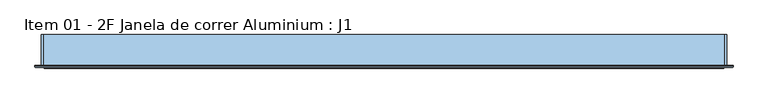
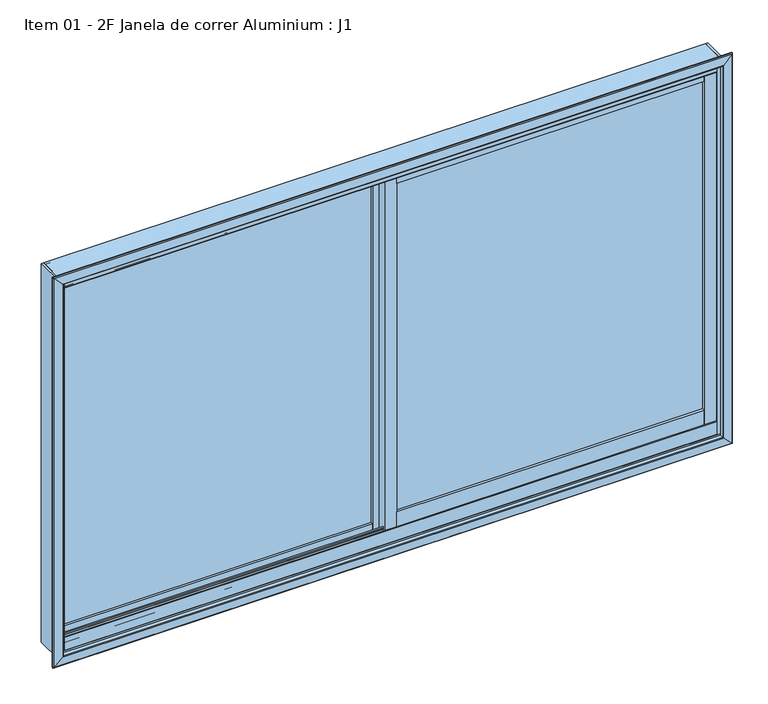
"""IFC4 building model written with IfcOpenShell, lengths in millimetres: window geometry, Item 01 - 2F Janela de correr Aluminium : J1."""

from ifc_helpers import new_model, si_unit, frame, origin, place, context, project, spatial, polyline, circle_curve, ellipse_curve, outline, extrude, source, transform, mapped, element, save
from ifc_brep_helpers import plane_surface, cylinder_surface, revolved_surface, advanced_brep


def item_01_2f_janela_de_correr_aluminium_j1_3e6ac885(model_context):
    return source(origin(), model_context, "Body", "SolidModel", [
        extrude(outline(polyline([(-27.3998339, -10.3), (-27.3998339, -14.3), (-954.750983, -14.3), (-954.750983, -10.3), (-27.3998339, -10.3)])), frame((0.0, 0.0, 857.0), z_axis=(0.0, 0.0, 1.0), x_axis=(1.0, 0.0, 0.0)), (0.0, 0.0, 1.0), 1080.5),
        extrude(outline(polyline([(27.2998339, -45.9), (27.2998339, -41.9), (948.868646, -41.9), (948.868646, -45.9), (27.2998339, -45.9)])), frame((0.0, 0.0, 895.5), z_axis=(0.0, 0.0, 1.0), x_axis=(1.0, 0.0, 0.0)), (0.0, 0.0, 1.0), 1042.0),
        extrude(outline(polyline([(948.868646, -33.9), (948.868646, -53.9), (27.2998339, -53.9), (27.2998339, -33.9), (948.868646, -33.9)])), frame((0.0, 0.0, 847.9996573), z_axis=(0.0, 0.0, 1.0), x_axis=(1.0, 0.0, 0.0)), (0.0, 0.0, 1.0), 47.5003427),
        extrude(outline(polyline([(948.868646, -33.9), (948.868646, -53.9), (27.2998339, -53.9), (27.2998339, -33.9), (948.868646, -33.9)])), frame((0.0, 0.0, 1937.4996573), z_axis=(0.0, 0.0, 1.0), x_axis=(1.0, 0.0, 0.0)), (0.0, 0.0, 1.0), 34.5),
        extrude(outline(polyline([(-27.3998339, -2.3), (-27.3998339, -22.3), (-954.750983, -22.3), (-954.750983, -2.3), (-27.3998339, -2.3)])), frame((0.0, 0.0, 821.0), z_axis=(0.0, 0.0, 1.0), x_axis=(1.0, 0.0, 0.0)), (0.0, 0.0, 1.0), 36.0),
        extrude(outline(polyline([(-27.3998339, -2.3), (-27.3998339, -22.3), (-954.750983, -22.3), (-954.750983, -2.3), (-27.3998339, -2.3)])), frame((0.0, 0.0, 1937.5), z_axis=(0.0, 0.0, 1.0), x_axis=(1.0, 0.0, 0.0)), (0.0, 0.0, 1.0), 34.5),
        extrude(outline(polyline([(-954.750983, -22.3), (-993.0, -22.3), (-993.0, -2.3), (-954.750983, -2.3), (-954.750983, -22.3)])), frame((0.0, 0.0, 821.0), z_axis=(0.0, 0.0, 1.0), x_axis=(1.0, 0.0, 0.0)), (0.0, 0.0, 1.0), 1151.0),
        extrude(outline(polyline([(-27.3998339, -22.3), (-27.3998339, -2.3), (7.6001661, -2.3), (7.6001661, -33.9), (27.2998339, -33.9), (27.2998339, -53.9), (-7.6001661, -53.9), (-7.6001661, -22.3), (-27.3998339, -22.3)])), frame((0.0, 0.0, 821.0), z_axis=(0.0, 0.0, 1.0), x_axis=(1.0, 0.0, 0.0)), (0.0, 0.0, 1.0), 1151.0),
        extrude(outline(polyline([(993.0, -53.9), (948.868646, -53.9), (948.868646, -33.9), (993.0, -33.9), (993.0, -53.9)])), frame((0.0, 0.0, 821.0), z_axis=(0.0, 0.0, 1.0), x_axis=(1.0, 0.0, 0.0)), (0.0, 0.0, 1.0), 1151.0),
        advanced_brep(
        [(-992.5998339, 8.5620965, 810.2470077), (-992.5998339, 8.5620965, 801.4000436), (-992.5998339, 13.600001, 801.4000436), (-992.5998339, 13.600001, 807.4000364), (-992.5998339, 14.9999993, 807.4000364), (-992.5998339, 15.0, 800.0), (-992.5998339, -75.0, 800.0), (-992.5998339, -75.0, 807.4000364), (-992.5998339, -73.6000017, 807.4000364), (-992.5998339, -73.6000017, 801.3999983), (-992.5998339, -68.6000077, 801.3999983), (-992.5998339, -68.6000077, 815.5000406), (-992.5998339, -66.9001002, 815.5000406), (-992.5998339, -66.9002002, 855.4959852), (-992.5998339, -63.9002108, 855.4999745), (-992.5998339, -63.9002039, 852.9999952), (-992.5998339, -65.5001025, 852.0762974), (-992.5998339, -65.4999102, 840.5017467), (-992.5998339, -64.5522917, 839.4937615), (-992.5998339, -42.5000392, 838.337999), (-992.5998339, -42.5000392, 852.496362), (-992.5998339, -44.7000484, 852.496362), (-992.5998339, -44.7000484, 848.6999865), (-992.5998339, -46.1007067, 848.6999865), (-992.5998339, -46.1007067, 852.4947997), (-992.5998339, -41.099933, 852.4947997), (-992.5998339, -41.099933, 838.2646991), (-992.5998339, -39.464205, 838.1789418), (-992.5998339, -35.731283, 834.861102), (-992.5998339, -32.3590937, 815.7367048), (-992.5998339, -29.9346709, 813.5917613), (-992.5998339, -14.4999651, 812.7828298), (-992.5998339, -14.4999651, 825.4891381), (-992.5998339, -9.4999947, 825.4999956), (-992.5998339, -9.4999711, 821.7000191), (-992.5998339, -10.8999694, 821.7000191), (-992.5998339, -10.8999694, 825.4963945), (-992.5998339, -13.0999825, 825.4963945), (-992.5998339, -13.0999825, 812.7095299), (-992.5998339, 7.2297593, 811.6448774), (992.5998339, 8.5620965, 810.2470077), (992.5998339, 8.5620965, 801.4000436), (992.5998339, 13.600001, 801.4000436), (992.5998339, 13.600001, 807.4000364), (992.5998339, 14.9999993, 807.4000364), (992.5998339, 15.0, 800.0), (992.5998339, -75.0, 800.0), (992.5998339, -75.0, 807.4000364), (992.5998339, -73.6000017, 807.4000364), (992.5998339, -73.6000017, 801.3999983), (992.5998339, -68.6000077, 801.3999983), (992.5998339, -68.6000077, 815.5000406), (992.5998339, -66.9001002, 815.5000406), (992.5998339, -66.9002002, 855.4959852), (992.5998339, -63.9002108, 855.4999745), (992.5998339, -63.9002039, 852.9999952), (992.5998339, -65.5001025, 852.0762974), (992.5998339, -65.4999102, 840.5017467), (992.5998339, -64.5522917, 839.4937615), (992.5998339, -42.5000392, 838.337999), (992.5998339, -42.5000392, 852.496362), (992.5998339, -44.7000484, 852.496362), (992.5998339, -44.7000484, 848.6999865), (992.5998339, -46.1007067, 848.6999865), (992.5998339, -46.1007067, 852.4947997), (992.5998339, -41.099933, 852.4947997), (992.5998339, -41.099933, 838.2646991), (992.5998339, -39.464205, 838.1789418), (992.5998339, -35.731283, 834.861102), (992.5998339, -32.3590937, 815.7367048), (992.5998339, -29.9346709, 813.5917613), (992.5998339, -14.4999651, 812.7828298), (992.5998339, -14.4999651, 825.4891381), (992.5998339, -9.4999947, 825.4999956), (992.5998339, -9.4999711, 821.7000191), (992.5998339, -10.8999694, 821.7000191), (992.5998339, -10.8999694, 825.4963945), (992.5998339, -13.0999825, 825.4963945), (992.5998339, -13.0999825, 812.7095299), (992.5998339, 7.2297593, 811.6448774)],
        [
            (0, 1),
            (1, 2),
            (2, 3),
            (3, 4),
            (4, 5),
            (5, 6),
            (6, 7),
            (7, 8),
            (8, 9),
            (9, 10),
            (10, 11),
            (11, 12),
            (12, 13),
            (13, 14, circle_curve(frame((-992.5998339, -65.4002082, 855.4999743), z_axis=(-1.0, 0.0, 0.0), x_axis=(0.0, 0.0, 1.0)), 1.4999974)),
            (14, 15),
            (15, 16),
            (16, 17),
            (17, 18, circle_curve(frame((-992.5998339, -64.4999552, 840.4923898), z_axis=(1.0, 0.0, 0.0), x_axis=(0.0, 0.0, 1.0)), 0.9999988)),
            (18, 19),
            (19, 20),
            (20, 21, circle_curve(frame((-992.5998339, -43.6000438, 852.496362), z_axis=(1.0, 0.0, 0.0), x_axis=(0.0, 0.0, 1.0)), 1.1000046)),
            (21, 22),
            (22, 23, circle_curve(frame((-992.5998339, -45.4003775, 848.6999865), z_axis=(-1.0, 0.0, 0.0), x_axis=(0.0, 0.0, 1.0)), 0.7003292)),
            (23, 24),
            (24, 25, circle_curve(frame((-992.5998339, -43.6003199, 852.4947997), z_axis=(-1.0, 0.0, 0.0), x_axis=(0.0, 0.0, 1.0)), 2.5003869)),
            (25, 26),
            (26, 27),
            (27, 28, circle_curve(frame((-992.5998339, -39.6736275, 834.1844326), z_axis=(-1.0, 0.0, 0.0), x_axis=(0.0, 0.0, 1.0)), 3.9999952)),
            (28, 29),
            (29, 30, circle_curve(frame((-992.5998339, -29.7985976, 816.188195), z_axis=(1.0, 0.0, 0.0), x_axis=(0.0, 0.0, 1.0)), 2.5999969)),
            (30, 31),
            (31, 32),
            (32, 33, circle_curve(frame((-992.5998339, -11.9999917, 825.4999955), z_axis=(-1.0, 0.0, 0.0), x_axis=(0.0, 0.0, 1.0)), 2.499997)),
            (33, 34),
            (34, 35, circle_curve(frame((-992.5998339, -10.1999703, 821.7000191), z_axis=(-1.0, 0.0, 0.0), x_axis=(0.0, 0.0, 1.0)), 0.6999992)),
            (35, 36),
            (36, 37, circle_curve(frame((-992.5998339, -11.9999759, 825.4963945), z_axis=(1.0, 0.0, 0.0), x_axis=(0.0, 0.0, 1.0)), 1.1000065)),
            (37, 38),
            (38, 39),
            (39, 0, circle_curve(frame((-992.5998339, 7.1626152, 810.2470077), z_axis=(-1.0, 0.0, 0.0), x_axis=(0.0, 0.0, 1.0)), 1.3994814)),
            (0, 40),
            (40, 41),
            (41, 1),
            (41, 42),
            (42, 2),
            (42, 43),
            (43, 3),
            (43, 44),
            (44, 4),
            (44, 45),
            (45, 5),
            (45, 46),
            (46, 6),
            (46, 47),
            (47, 7),
            (47, 48),
            (48, 8),
            (48, 49),
            (49, 9),
            (49, 50),
            (50, 10),
            (50, 51),
            (51, 11),
            (51, 52),
            (52, 12),
            (52, 53),
            (53, 13),
            (53, 54, circle_curve(frame((992.5998339, -65.4002082, 855.4999743), z_axis=(-1.0, 0.0, 0.0), x_axis=(0.0, 0.0, 1.0)), 1.4999974)),
            (54, 14),
            (54, 55),
            (55, 15),
            (55, 56),
            (56, 16),
            (56, 57),
            (57, 17),
            (57, 58, circle_curve(frame((992.5998339, -64.4999552, 840.4923898), z_axis=(1.0, 0.0, 0.0), x_axis=(0.0, 0.0, 1.0)), 0.9999988)),
            (58, 18),
            (58, 59),
            (59, 19),
            (59, 60),
            (60, 20),
            (60, 61, circle_curve(frame((992.5998339, -43.6000438, 852.496362), z_axis=(1.0, 0.0, 0.0), x_axis=(0.0, 0.0, 1.0)), 1.1000046)),
            (61, 21),
            (61, 62),
            (62, 22),
            (62, 63, circle_curve(frame((992.5998339, -45.4003775, 848.6999865), z_axis=(-1.0, 0.0, 0.0), x_axis=(0.0, 0.0, 1.0)), 0.7003292)),
            (63, 23),
            (63, 64),
            (64, 24),
            (64, 65, circle_curve(frame((992.5998339, -43.6003199, 852.4947997), z_axis=(-1.0, 0.0, 0.0), x_axis=(0.0, 0.0, 1.0)), 2.5003869)),
            (65, 25),
            (65, 66),
            (66, 26),
            (66, 67),
            (67, 27),
            (67, 68, circle_curve(frame((992.5998339, -39.6736275, 834.1844326), z_axis=(-1.0, 0.0, 0.0), x_axis=(0.0, 0.0, 1.0)), 3.9999952)),
            (68, 28),
            (68, 69),
            (69, 29),
            (69, 70, circle_curve(frame((992.5998339, -29.7985976, 816.188195), z_axis=(1.0, 0.0, 0.0), x_axis=(0.0, 0.0, 1.0)), 2.5999969)),
            (70, 30),
            (70, 71),
            (71, 31),
            (71, 72),
            (72, 32),
            (72, 73, circle_curve(frame((992.5998339, -11.9999917, 825.4999955), z_axis=(-1.0, 0.0, 0.0), x_axis=(0.0, 0.0, 1.0)), 2.499997)),
            (73, 33),
            (73, 74),
            (74, 34),
            (74, 75, circle_curve(frame((992.5998339, -10.1999703, 821.7000191), z_axis=(-1.0, 0.0, 0.0), x_axis=(0.0, 0.0, 1.0)), 0.6999992)),
            (75, 35),
            (75, 76),
            (76, 36),
            (76, 77, circle_curve(frame((992.5998339, -11.9999759, 825.4963945), z_axis=(1.0, 0.0, 0.0), x_axis=(0.0, 0.0, 1.0)), 1.1000065)),
            (77, 37),
            (77, 78),
            (78, 38),
            (78, 79),
            (79, 39),
            (79, 40, circle_curve(frame((992.5998339, 7.1626152, 810.2470077), z_axis=(-1.0, 0.0, 0.0), x_axis=(0.0, 0.0, 1.0)), 1.3994814)),
        ],
        [
            plane_surface(frame((-992.5998339, -75.0, 2000.0), z_axis=(-1.0, 0.0, 0.0), x_axis=(0.0, -1.0, 0.0))),
            plane_surface(frame((-992.5998339, 8.5620965, 810.2470077), z_axis=(0.0, 1.0, 0.0), x_axis=(1.0, 0.0, 0.0))),
            plane_surface(frame((-992.5998339, 8.5620965, 801.4000436), z_axis=(0.0, 0.0, 1.0), x_axis=(1.0, 0.0, 0.0))),
            plane_surface(frame((-992.5998339, 13.600001, 801.4000436), z_axis=(0.0, -1.0, 0.0), x_axis=(1.0, 0.0, 0.0))),
            plane_surface(frame((-992.5998339, 13.600001, 807.4000364), z_axis=(0.0, 0.0, 1.0), x_axis=(1.0, 0.0, 0.0))),
            plane_surface(frame((-992.5998339, 14.9999993, 807.4000364), z_axis=(0.0, 0.999999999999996, 9.01305508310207e-08), x_axis=(1.0, 0.0, 0.0))),
            plane_surface(frame((-992.5998339, 15.0, 800.0), z_axis=(0.0, 0.0, -1.0), x_axis=(1.0, 0.0, 0.0))),
            plane_surface(frame((-992.5998339, -75.0, 800.0), z_axis=(0.0, -1.0, 0.0), x_axis=(1.0, 0.0, 0.0))),
            plane_surface(frame((-992.5998339, -75.0, 807.4000364), z_axis=(0.0, 0.0, 1.0), x_axis=(1.0, 0.0, 0.0))),
            plane_surface(frame((-992.5998339, -73.6000017, 807.4000364), z_axis=(0.0, 1.0, 0.0), x_axis=(1.0, 0.0, 0.0))),
            plane_surface(frame((-992.5998339, -73.6000017, 801.3999983), z_axis=(0.0, 0.0, 1.0), x_axis=(1.0, 0.0, 0.0))),
            plane_surface(frame((-992.5998339, -68.6000077, 801.3999983), z_axis=(0.0, -1.0, 0.0), x_axis=(1.0, 0.0, 0.0))),
            plane_surface(frame((-992.5998339, -68.6000077, 815.5000406), z_axis=(0.0, 0.0, 1.0), x_axis=(1.0, 0.0, 0.0))),
            plane_surface(frame((-992.5998339, -66.9001002, 815.5000406), z_axis=(0.0, -0.999999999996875, -2.50000000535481e-06), x_axis=(1.0, 0.0, 0.0))),
            cylinder_surface(frame((-992.5998339, -65.4002082, 855.4999743), z_axis=(-1.0, 0.0, 0.0), x_axis=(0.0, 0.0, 1.0)), 1.4999974),
            plane_surface(frame((-992.5998339, -63.9002039, 855.4999927), z_axis=(0.0, 1.0, 0.0), x_axis=(1.0, 0.0, 0.0))),
            plane_surface(frame((-992.5998339, -63.9002039, 852.9999952), z_axis=(0.0, 0.4999983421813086, -0.8660263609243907), x_axis=(1.0, 0.0, 0.0))),
            plane_surface(frame((-992.5998339, -65.5001025, 852.0762974), z_axis=(0.0, 0.9999999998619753, 1.6614737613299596e-05), x_axis=(1.0, 0.0, 0.0))),
            revolved_surface(polyline([(992.5998339, -64.4999552, 841.4923885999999), (-992.5998339, -64.4999552, 841.4923885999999)]), (-992.5998339, -64.4999552, 840.4923898), (1.0, 0.0, 0.0)),
            plane_surface(frame((-992.5998339, -64.5523119, 839.493712), z_axis=(0.0, 0.05233606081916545, 0.9986295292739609), x_axis=(1.0, 0.0, 0.0))),
            plane_surface(frame((-992.5998339, -42.5000392, 838.337999), z_axis=(0.0, -1.0, 0.0), x_axis=(1.0, 0.0, 0.0))),
            revolved_surface(polyline([(992.5998339, -43.6000438, 853.5963666), (-992.5998339, -43.6000438, 853.5963666)]), (-992.5998339, -43.6000438, 852.496362), (1.0, 0.0, 0.0)),
            plane_surface(frame((-992.5998339, -44.7000484, 852.496362), z_axis=(0.0, 1.0, 0.0), x_axis=(1.0, 0.0, 0.0))),
            cylinder_surface(frame((-992.5998339, -45.4003775, 848.6999865), z_axis=(-1.0, 0.0, 0.0), x_axis=(0.0, 0.0, 1.0)), 0.7003292),
            plane_surface(frame((-992.5998339, -46.1007067, 848.6999865), z_axis=(0.0, -1.0, 0.0), x_axis=(1.0, 0.0, 0.0))),
            cylinder_surface(frame((-992.5998339, -43.6003199, 852.4947997), z_axis=(-1.0, 0.0, 0.0), x_axis=(0.0, 0.0, 1.0)), 2.5003869),
            plane_surface(frame((-992.5998339, -41.099933, 852.4947997), z_axis=(0.0, 1.0, 0.0), x_axis=(1.0, 0.0, 0.0))),
            plane_surface(frame((-992.5998339, -41.099933, 838.2646991), z_axis=(0.0, 0.05235569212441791, 0.998628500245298), x_axis=(1.0, 0.0, 0.0))),
            cylinder_surface(frame((-992.5998339, -39.6736275, 834.1844326), z_axis=(-1.0, 0.0, 0.0), x_axis=(0.0, 0.0, 1.0)), 3.9999952),
            plane_surface(frame((-992.5998339, -35.731283, 834.861102), z_axis=(0.0, 0.9848073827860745, 0.1736502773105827), x_axis=(1.0, 0.0, 0.0))),
            revolved_surface(polyline([(992.5998339, -29.7985976, 818.7881918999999), (-992.5998339, -29.7985976, 818.7881918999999)]), (-992.5998339, -29.7985976, 816.188195), (1.0, 0.0, 0.0)),
            plane_surface(frame((-992.5998339, -29.9346464, 813.5917288), z_axis=(0.0, 0.05233606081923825, 0.9986295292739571), x_axis=(1.0, 0.0, 0.0))),
            plane_surface(frame((-992.5998339, -14.4999651, 812.7828298), z_axis=(0.0, -1.0, 0.0), x_axis=(1.0, 0.0, 0.0))),
            cylinder_surface(frame((-992.5998339, -11.9999917, 825.4999955), z_axis=(-1.0, 0.0, 0.0), x_axis=(0.0, 0.0, 1.0)), 2.499997),
            plane_surface(frame((-992.5998339, -9.4999711, 825.5000145), z_axis=(0.0, 1.0, 0.0), x_axis=(1.0, 0.0, 0.0))),
            cylinder_surface(frame((-992.5998339, -10.1999703, 821.7000191), z_axis=(-1.0, 0.0, 0.0), x_axis=(0.0, 0.0, 1.0)), 0.6999992),
            plane_surface(frame((-992.5998339, -10.8999694, 821.7000191), z_axis=(0.0, -1.0, 0.0), x_axis=(1.0, 0.0, 0.0))),
            revolved_surface(polyline([(992.5998339, -11.9999759, 826.5964009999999), (-992.5998339, -11.9999759, 826.5964009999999)]), (-992.5998339, -11.9999759, 825.4963945), (1.0, 0.0, 0.0)),
            plane_surface(frame((-992.5998339, -13.0999825, 825.4963945), z_axis=(0.0, 1.0, 0.0), x_axis=(1.0, 0.0, 0.0))),
            plane_surface(frame((-992.5998339, -13.0999825, 812.7095299), z_axis=(0.0, 0.052297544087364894, 0.9986315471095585), x_axis=(1.0, 0.0, 0.0))),
            cylinder_surface(frame((-992.5998339, 7.1626152, 810.2470077), z_axis=(-1.0, 0.0, 0.0), x_axis=(0.0, 0.0, 1.0)), 1.3994814),
            plane_surface(frame((992.5998339, -75.0, 2000.0), z_axis=(1.0, 0.0, 0.0), x_axis=(0.0, -1.0, 0.0))),
        ],
        [
            (0, [[1, 2, 3, 4, 5, 6, 7, 8, 9, 10, 11, 12, 13, 14, 15, 16, 17, 18, 19, 20, 21, 22, 23, 24, 25, 26, 27, 28, 29, 30, 31, 32, 33, 34, 35, 36, 37, 38, 39, 40]]),
            (1, [[-1, 41, 42, 43]]),
            (2, [[-2, -43, 44, 45]]),
            (3, [[-3, -45, 46, 47]]),
            (4, [[-4, -47, 48, 49]]),
            (5, [[-5, -49, 50, 51]]),
            (6, [[-6, -51, 52, 53]]),
            (7, [[-7, -53, 54, 55]]),
            (8, [[-8, -55, 56, 57]]),
            (9, [[-9, -57, 58, 59]]),
            (10, [[-10, -59, 60, 61]]),
            (11, [[-11, -61, 62, 63]]),
            (12, [[-12, -63, 64, 65]]),
            (13, [[-13, -65, 66, 67]]),
            (14, [[-14, -67, 68, 69]]),
            (15, [[-15, -69, 70, 71]]),
            (16, [[-16, -71, 72, 73]]),
            (17, [[-17, -73, 74, 75]]),
            (18, [[-18, -75, 76, 77]]),
            (19, [[-19, -77, 78, 79]]),
            (20, [[-20, -79, 80, 81]]),
            (21, [[-21, -81, 82, 83]]),
            (22, [[-22, -83, 84, 85]]),
            (23, [[-23, -85, 86, 87]]),
            (24, [[-24, -87, 88, 89]]),
            (25, [[-25, -89, 90, 91]]),
            (26, [[-26, -91, 92, 93]]),
            (27, [[-27, -93, 94, 95]]),
            (28, [[-28, -95, 96, 97]]),
            (29, [[-29, -97, 98, 99]]),
            (30, [[-30, -99, 100, 101]]),
            (31, [[-31, -101, 102, 103]]),
            (32, [[-32, -103, 104, 105]]),
            (33, [[-33, -105, 106, 107]]),
            (34, [[-34, -107, 108, 109]]),
            (35, [[-35, -109, 110, 111]]),
            (36, [[-36, -111, 112, 113]]),
            (37, [[-37, -113, 114, 115]]),
            (38, [[-38, -115, 116, 117]]),
            (39, [[-39, -117, 118, 119]]),
            (40, [[-40, -119, 120, -41]]),
            (41, [[-120, -118, -116, -114, -112, -110, -108, -106, -104, -102, -100, -98, -96, -94, -92, -90, -88, -86, -84, -82, -80, -78, -76, -74, -72, -70, -68, -66, -64, -62, -60, -58, -56, -54, -52, -50, -48, -46, -44, -42]]),
        ],
    ),
        advanced_brep(
        [(-992.5998339, -66.8990741, 1965.5), (-992.5998339, -66.8990741, 1984.5), (-992.5998339, -68.5994745, 1984.5), (-992.5998339, -68.5994745, 1998.6), (-992.5998339, -73.5994745, 1998.6), (-992.5998339, -73.5994745, 1992.6), (-992.5998339, -74.9994395, 1992.6), (-992.5998339, -74.9994395, 2000.0), (-992.5998339, 15.0005605, 2000.0), (-992.5998339, 15.0005605, 1992.6), (-992.5998339, 13.6005455, 1992.6), (-992.5998339, 13.6005455, 1998.6), (-992.5998339, 8.6005455, 1998.6), (-992.5998339, 8.6005455, 1984.5), (-992.5998339, 6.9005605, 1984.5), (-992.5998339, 6.9005605, 1961.0), (-992.5998339, 5.5005605, 1960.0834849), (-992.5998339, 5.5005605, 1984.5), (-992.5998339, -13.0994395, 1984.5), (-992.5998339, -13.0994395, 1966.4999475), (-992.5998339, -10.8994395, 1966.4999475), (-992.5998339, -10.8994395, 1970.298754), (-992.5998339, -9.4986209, 1970.298754), (-992.5998339, -9.4986209, 1966.4999475), (-992.5998339, -14.5002581, 1966.4999475), (-992.5998339, -14.5002581, 1984.5), (-992.5998339, -41.0986209, 1984.5), (-992.5998339, -41.0986209, 1966.499981), (-992.5998339, -46.1002581, 1966.499981), (-992.5998339, -46.1002581, 1970.2997289), (-992.5998339, -44.6994395, 1970.2997289), (-992.5998339, -44.6994395, 1966.499981), (-992.5998339, -42.4994395, 1966.499981), (-992.5998339, -42.4994395, 1984.5), (-992.5998339, -65.4994049, 1984.5), (-992.5998339, -65.4994049, 1968.9237013), (-992.5998339, -63.8998049, 1968.0002013), (-992.5998339, -63.8998049, 1965.5), (992.5998339, -66.8990741, 1965.5), (992.5998339, -63.8998049, 1965.5), (992.5998339, -63.8998049, 1968.0002013), (992.5998339, -65.4994049, 1968.9237013), (992.5998339, -65.4994049, 1984.5), (992.5998339, -42.4994395, 1984.5), (992.5998339, -42.4994395, 1966.499981), (992.5998339, -44.6994395, 1966.499981), (992.5998339, -44.6994395, 1970.2997289), (992.5998339, -46.1002581, 1970.2997289), (992.5998339, -46.1002581, 1966.499981), (992.5998339, -41.0986209, 1966.499981), (992.5998339, -41.0986209, 1984.5), (992.5998339, -14.5002581, 1984.5), (992.5998339, -14.5002581, 1966.4999475), (992.5998339, -9.4986209, 1966.4999475), (992.5998339, -9.4986209, 1970.298754), (992.5998339, -10.8994395, 1970.298754), (992.5998339, -10.8994395, 1966.4999475), (992.5998339, -13.0994395, 1966.4999475), (992.5998339, -13.0994395, 1984.5), (992.5998339, 5.5005605, 1984.5), (992.5998339, 5.5005605, 1960.0834849), (992.5998339, 6.9005605, 1961.0), (992.5998339, 6.9005605, 1984.5), (992.5998339, 8.6005455, 1984.5), (992.5998339, 8.6005455, 1998.6), (992.5998339, 13.6005455, 1998.6), (992.5998339, 13.6005455, 1992.6), (992.5998339, 15.0005605, 1992.6), (992.5998339, 15.0005605, 2000.0), (992.5998339, -74.9994395, 2000.0), (992.5998339, -74.9994395, 1992.6), (992.5998339, -73.5994745, 1992.6), (992.5998339, -73.5994745, 1998.6), (992.5998339, -68.5994745, 1998.6), (992.5998339, -68.5994745, 1984.5), (992.5998339, -66.8990741, 1984.5)],
        [
            (0, 1),
            (1, 2),
            (2, 3),
            (3, 4),
            (4, 5),
            (5, 6),
            (6, 7),
            (7, 8),
            (8, 9),
            (9, 10),
            (10, 11),
            (11, 12),
            (12, 13),
            (13, 14),
            (14, 15),
            (15, 16, circle_curve(frame((-992.5998339, 5.9005605, 1961.0), z_axis=(-1.0, 0.0, 0.0), x_axis=(0.0, 0.0, 1.0)), 1.0)),
            (16, 17),
            (17, 18),
            (18, 19),
            (19, 20, circle_curve(frame((-992.5998339, -11.9994395, 1966.4999475), z_axis=(1.0, 0.0, 0.0), x_axis=(0.0, 0.0, 1.0)), 1.1)),
            (20, 21),
            (21, 22, circle_curve(frame((-992.5998339, -10.1990302, 1970.298754), z_axis=(-1.0, 0.0, 0.0), x_axis=(0.0, 0.0, 1.0)), 0.7004093)),
            (22, 23),
            (23, 24, circle_curve(frame((-992.5998339, -11.9994395, 1966.4999475), z_axis=(-1.0, 0.0, 0.0), x_axis=(0.0, 0.0, 1.0)), 2.5008186)),
            (24, 25),
            (25, 26),
            (26, 27),
            (27, 28, circle_curve(frame((-992.5998339, -43.5994395, 1966.499981), z_axis=(-1.0, 0.0, 0.0), x_axis=(0.0, 0.0, 1.0)), 2.5008186)),
            (28, 29),
            (29, 30, circle_curve(frame((-992.5998339, -45.3998488, 1970.2997289), z_axis=(-1.0, 0.0, 0.0), x_axis=(0.0, 0.0, 1.0)), 0.7004093)),
            (30, 31),
            (31, 32, circle_curve(frame((-992.5998339, -43.5994395, 1966.499981), z_axis=(1.0, 0.0, 0.0), x_axis=(0.0, 0.0, 1.0)), 1.1)),
            (32, 33),
            (33, 34),
            (34, 35),
            (35, 36),
            (36, 37),
            (37, 0, circle_curve(frame((-992.5998339, -65.3994395, 1965.5), z_axis=(-1.0, 0.0, 0.0), x_axis=(0.0, 0.0, 1.0)), 1.4996346)),
            (38, 39, circle_curve(frame((992.5998339, -65.3994395, 1965.5), z_axis=(1.0, 0.0, 0.0), x_axis=(0.0, 0.0, 1.0)), 1.4996346)),
            (39, 40),
            (40, 41),
            (41, 42),
            (42, 43),
            (43, 44),
            (44, 45, circle_curve(frame((992.5998339, -43.5994395, 1966.499981), z_axis=(-1.0, 0.0, 0.0), x_axis=(0.0, 0.0, 1.0)), 1.1)),
            (45, 46),
            (46, 47, circle_curve(frame((992.5998339, -45.3998488, 1970.2997289), z_axis=(1.0, 0.0, 0.0), x_axis=(0.0, 0.0, 1.0)), 0.7004093)),
            (47, 48),
            (48, 49, circle_curve(frame((992.5998339, -43.5994395, 1966.499981), z_axis=(1.0, 0.0, 0.0), x_axis=(0.0, 0.0, 1.0)), 2.5008186)),
            (49, 50),
            (50, 51),
            (51, 52),
            (52, 53, circle_curve(frame((992.5998339, -11.9994395, 1966.4999475), z_axis=(1.0, 0.0, 0.0), x_axis=(0.0, 0.0, 1.0)), 2.5008186)),
            (53, 54),
            (54, 55, circle_curve(frame((992.5998339, -10.1990302, 1970.298754), z_axis=(1.0, 0.0, 0.0), x_axis=(0.0, 0.0, 1.0)), 0.7004093)),
            (55, 56),
            (56, 57, circle_curve(frame((992.5998339, -11.9994395, 1966.4999475), z_axis=(-1.0, 0.0, 0.0), x_axis=(0.0, 0.0, 1.0)), 1.1)),
            (57, 58),
            (58, 59),
            (59, 60),
            (60, 61, circle_curve(frame((992.5998339, 5.9005605, 1961.0), z_axis=(1.0, 0.0, 0.0), x_axis=(0.0, 0.0, 1.0)), 1.0)),
            (61, 62),
            (62, 63),
            (63, 64),
            (64, 65),
            (65, 66),
            (66, 67),
            (67, 68),
            (68, 69),
            (69, 70),
            (70, 71),
            (71, 72),
            (72, 73),
            (73, 74),
            (74, 75),
            (75, 38),
            (0, 38),
            (75, 1),
            (74, 2),
            (73, 3),
            (72, 4),
            (71, 5),
            (70, 6),
            (69, 7),
            (68, 8),
            (67, 9),
            (66, 10),
            (65, 11),
            (64, 12),
            (63, 13),
            (62, 14),
            (61, 15),
            (60, 16),
            (59, 17),
            (58, 18),
            (57, 19),
            (56, 20),
            (55, 21),
            (54, 22),
            (53, 23),
            (52, 24),
            (51, 25),
            (50, 26),
            (49, 27),
            (48, 28),
            (47, 29),
            (46, 30),
            (45, 31),
            (44, 32),
            (43, 33),
            (42, 34),
            (41, 35),
            (40, 36),
            (39, 37),
        ],
        [
            plane_surface(frame((-992.5998339, -75.0, 2000.0), z_axis=(-1.0, 0.0, 0.0), x_axis=(0.0, -1.0, 0.0))),
            plane_surface(frame((992.5998339, -75.0, 2000.0), z_axis=(1.0, 0.0, 0.0), x_axis=(0.0, -1.0, 0.0))),
            plane_surface(frame((-992.5998339, -66.8990741, 1965.5), z_axis=(0.0, -1.0, 0.0), x_axis=(1.0, 0.0, 0.0))),
            plane_surface(frame((-992.5998339, -66.8990741, 1984.5), z_axis=(0.0, 0.0, -1.0), x_axis=(1.0, 0.0, 0.0))),
            plane_surface(frame((-992.5998339, -68.5994745, 1984.5), z_axis=(0.0, -1.0, 0.0), x_axis=(1.0, 0.0, 0.0))),
            plane_surface(frame((-992.5998339, -68.5994745, 1998.6), z_axis=(0.0, 0.0, -1.0), x_axis=(1.0, 0.0, 0.0))),
            plane_surface(frame((-992.5998339, -73.5994745, 1998.6), z_axis=(0.0, 1.0, 0.0), x_axis=(1.0, 0.0, 0.0))),
            plane_surface(frame((-992.5998339, -73.5994745, 1992.6), z_axis=(0.0, 0.0, -1.0), x_axis=(1.0, 0.0, 0.0))),
            plane_surface(frame((-992.5998339, -74.9994395, 1992.6), z_axis=(0.0, -1.0, 0.0), x_axis=(1.0, 0.0, 0.0))),
            plane_surface(frame((-992.5998339, -74.9994395, 2000.0), z_axis=(0.0, 0.0, 1.0), x_axis=(1.0, 0.0, 0.0))),
            plane_surface(frame((-992.5998339, 15.0005605, 2000.0), z_axis=(0.0, 1.0, 0.0), x_axis=(1.0, 0.0, 0.0))),
            plane_surface(frame((-992.5998339, 15.0005605, 1992.6), z_axis=(0.0, 0.0, -1.0), x_axis=(1.0, 0.0, 0.0))),
            plane_surface(frame((-992.5998339, 13.6005455, 1992.6), z_axis=(0.0, -1.0, 0.0), x_axis=(1.0, 0.0, 0.0))),
            plane_surface(frame((-992.5998339, 13.6005455, 1998.6), z_axis=(0.0, 0.0, -1.0), x_axis=(1.0, 0.0, 0.0))),
            plane_surface(frame((-992.5998339, 8.6005455, 1998.6), z_axis=(0.0, 1.0, 0.0), x_axis=(1.0, 0.0, 0.0))),
            plane_surface(frame((-992.5998339, 8.6005455, 1984.5), z_axis=(0.0, 0.0, -1.0), x_axis=(1.0, 0.0, 0.0))),
            plane_surface(frame((-992.5998339, 6.9005605, 1984.5), z_axis=(0.0, 1.0, 0.0), x_axis=(1.0, 0.0, 0.0))),
            cylinder_surface(frame((-992.5998339, 5.9005605, 1961.0), z_axis=(-1.0, 0.0, 0.0), x_axis=(0.0, 0.0, 1.0)), 1.0),
            plane_surface(frame((-992.5998339, 5.5005605, 1960.0834849), z_axis=(0.0, -1.0, 0.0), x_axis=(1.0, 0.0, 0.0))),
            plane_surface(frame((-992.5998339, 5.5005605, 1984.5), z_axis=(0.0, 0.0, -1.0), x_axis=(1.0, 0.0, 0.0))),
            plane_surface(frame((-992.5998339, -13.0994395, 1984.5), z_axis=(0.0, 1.0, 0.0), x_axis=(1.0, 0.0, 0.0))),
            revolved_surface(polyline([(992.5998339, -11.9994395, 1967.5999474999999), (-992.5998339, -11.9994395, 1967.5999474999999)]), (-992.5998339, -11.9994395, 1966.4999475), (1.0, 0.0, 0.0)),
            plane_surface(frame((-992.5998339, -10.8994395, 1966.4999475), z_axis=(0.0, -1.0, 0.0), x_axis=(1.0, 0.0, 0.0))),
            cylinder_surface(frame((-992.5998339, -10.1990302, 1970.298754), z_axis=(-1.0, 0.0, 0.0), x_axis=(0.0, 0.0, 1.0)), 0.7004093),
            plane_surface(frame((-992.5998339, -9.4986209, 1970.298754), z_axis=(0.0, 1.0, 0.0), x_axis=(1.0, 0.0, 0.0))),
            cylinder_surface(frame((-992.5998339, -11.9994395, 1966.4999475), z_axis=(-1.0, 0.0, 0.0), x_axis=(0.0, 0.0, 1.0)), 2.5008186),
            plane_surface(frame((-992.5998339, -14.5002581, 1966.4999475), z_axis=(0.0, -1.0, 0.0), x_axis=(1.0, 0.0, 0.0))),
            plane_surface(frame((-992.5998339, -14.5002581, 1984.5), z_axis=(0.0, 0.0, -1.0), x_axis=(1.0, 0.0, 0.0))),
            plane_surface(frame((-992.5998339, -41.0986209, 1984.5), z_axis=(0.0, 1.0, 0.0), x_axis=(1.0, 0.0, 0.0))),
            cylinder_surface(frame((-992.5998339, -43.5994395, 1966.499981), z_axis=(-1.0, 0.0, 0.0), x_axis=(0.0, 0.0, 1.0)), 2.5008186),
            plane_surface(frame((-992.5998339, -46.1002581, 1966.499981), z_axis=(0.0, -1.0, 0.0), x_axis=(1.0, 0.0, 0.0))),
            cylinder_surface(frame((-992.5998339, -45.3998488, 1970.2997289), z_axis=(-1.0, 0.0, 0.0), x_axis=(0.0, 0.0, 1.0)), 0.7004093),
            plane_surface(frame((-992.5998339, -44.6994395, 1970.2997289), z_axis=(0.0, 1.0, 0.0), x_axis=(1.0, 0.0, 0.0))),
            revolved_surface(polyline([(992.5998339, -43.5994395, 1967.5999809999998), (-992.5998339, -43.5994395, 1967.5999809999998)]), (-992.5998339, -43.5994395, 1966.499981), (1.0, 0.0, 0.0)),
            plane_surface(frame((-992.5998339, -42.4994395, 1966.499981), z_axis=(0.0, -1.0, 0.0), x_axis=(1.0, 0.0, 0.0))),
            plane_surface(frame((-992.5998339, -42.4994395, 1984.5), z_axis=(0.0, 0.0, -1.0), x_axis=(1.0, 0.0, 0.0))),
            plane_surface(frame((-992.5998339, -65.4994049, 1984.5), z_axis=(0.0, 1.0, 0.0), x_axis=(1.0, 0.0, 0.0))),
            plane_surface(frame((-992.5998339, -65.4994049, 1968.9237013), z_axis=(0.0, 0.49998802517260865, 0.8660323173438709), x_axis=(1.0, 0.0, 0.0))),
            plane_surface(frame((-992.5998339, -63.8998049, 1968.0002013), z_axis=(0.0, 1.0, 0.0), x_axis=(1.0, 0.0, 0.0))),
            cylinder_surface(frame((-992.5998339, -65.3994395, 1965.5), z_axis=(-1.0, 0.0, 0.0), x_axis=(0.0, 0.0, 1.0)), 1.4996346),
        ],
        [
            (0, [[1, 2, 3, 4, 5, 6, 7, 8, 9, 10, 11, 12, 13, 14, 15, 16, 17, 18, 19, 20, 21, 22, 23, 24, 25, 26, 27, 28, 29, 30, 31, 32, 33, 34, 35, 36, 37, 38]]),
            (1, [[39, 40, 41, 42, 43, 44, 45, 46, 47, 48, 49, 50, 51, 52, 53, 54, 55, 56, 57, 58, 59, 60, 61, 62, 63, 64, 65, 66, 67, 68, 69, 70, 71, 72, 73, 74, 75, 76]]),
            (2, [[-1, 77, -76, 78]]),
            (3, [[-2, -78, -75, 79]]),
            (4, [[-3, -79, -74, 80]]),
            (5, [[-4, -80, -73, 81]]),
            (6, [[-5, -81, -72, 82]]),
            (7, [[-6, -82, -71, 83]]),
            (8, [[-7, -83, -70, 84]]),
            (9, [[-8, -84, -69, 85]]),
            (10, [[-9, -85, -68, 86]]),
            (11, [[-10, -86, -67, 87]]),
            (12, [[-11, -87, -66, 88]]),
            (13, [[-12, -88, -65, 89]]),
            (14, [[-13, -89, -64, 90]]),
            (15, [[-14, -90, -63, 91]]),
            (16, [[-15, -91, -62, 92]]),
            (17, [[-16, -92, -61, 93]]),
            (18, [[-17, -93, -60, 94]]),
            (19, [[-18, -94, -59, 95]]),
            (20, [[-19, -95, -58, 96]]),
            (21, [[-20, -96, -57, 97]]),
            (22, [[-21, -97, -56, 98]]),
            (23, [[-22, -98, -55, 99]]),
            (24, [[-23, -99, -54, 100]]),
            (25, [[-24, -100, -53, 101]]),
            (26, [[-25, -101, -52, 102]]),
            (27, [[-26, -102, -51, 103]]),
            (28, [[-27, -103, -50, 104]]),
            (29, [[-28, -104, -49, 105]]),
            (30, [[-29, -105, -48, 106]]),
            (31, [[-30, -106, -47, 107]]),
            (32, [[-31, -107, -46, 108]]),
            (33, [[-32, -108, -45, 109]]),
            (34, [[-33, -109, -44, 110]]),
            (35, [[-34, -110, -43, 111]]),
            (36, [[-35, -111, -42, 112]]),
            (37, [[-36, -112, -41, 113]]),
            (38, [[-37, -113, -40, 114]]),
            (39, [[-38, -114, -39, -77]]),
        ],
    ),
        extrude(outline(polyline([(-1000.0, -75.0), (-1000.0, 15.0005605), (-992.5998339, 15.0005605), (-992.5998339, 8.6005605), (-979.5998339, 8.6005605), (-979.5998339, 7.2005603), (-992.5998339, 7.2005603), (-992.5998339, -67.1994395), (-979.5998339, -67.1994395), (-979.5998339, -68.5994395), (-992.5998339, -68.5994395), (-992.5998339, -75.0), (-1000.0, -75.0)])), frame((0.0, 0.0, 800.0), z_axis=(0.0, 0.0, 1.0), x_axis=(1.0, 0.0, 0.0)), (0.0, 0.0, 1.0), 1200.0),
        extrude(outline(polyline([(1000.0, -75.0), (992.5998339, -75.0), (992.5998339, -68.5994395), (979.5998339, -68.5994395), (979.5998339, -67.1994395), (992.5998339, -67.1994395), (992.5998339, 7.2005603), (979.5998339, 7.2005603), (979.5998339, 8.6005605), (992.5998339, 8.6005605), (992.5998339, 15.0005605), (1000.0, 15.0005605), (1000.0, -75.0)])), frame((0.0, 0.0, 800.0), z_axis=(0.0, 0.0, 1.0), x_axis=(1.0, 0.0, 0.0)), (0.0, 0.0, 1.0), 1200.0),
        advanced_brep(
        [(1016.6179787, -80.8032791, 783.3820213), (991.6179953, -82.990685, 808.3820047), (-991.6179953, -82.990685, 808.3820047), (-1016.6179787, -80.8032791, 783.3820213), (1018.9000454, -78.301595, 781.0999546), (-1018.9000454, -78.301595, 781.0999546), (1018.9000454, -75.0, 781.0999546), (-1018.9000454, -75.0, 781.0999546), (1017.8000705, -78.312794, 782.1999295), (1017.8000705, -75.0, 782.1999295), (-1017.8000705, -75.0, 782.1999295), (-1017.8000705, -78.312794, 782.1999295), (1016.5220991, -79.7074657, 783.4779009), (-1016.5220991, -79.7074657, 783.4779009), (991.5051608, -81.896355, 808.4948392), (-991.5051608, -81.896355, 808.4948392), (990.0000742, -80.5100572, 809.9999258), (-990.0000742, -80.5100572, 809.9999258), (990.0000742, -69.0002188, 809.9999258), (-990.0000742, -69.0002188, 809.9999258), (988.9000871, -80.5001999, 811.0999129), (988.9000871, -69.0002188, 811.0999129), (-988.9000871, -69.0002188, 811.0999129), (-988.9000871, -80.5001999, 811.0999129), (-991.6179953, -82.990685, 1991.6179953), (-1016.6179787, -80.8032791, 2016.6179787), (-1018.9000454, -78.301595, 2018.9000454), (-1018.9000454, -75.0, 2018.9000454), (-1017.8000705, -75.0, 2017.8000705), (-1017.8000705, -78.312794, 2017.8000705), (-1016.5220991, -79.7074657, 2016.5220991), (-991.5051608, -81.896355, 1991.5051608), (-990.0000742, -80.5100572, 1990.0000742), (-990.0000742, -69.0002188, 1990.0000742), (-988.9000871, -69.0002188, 1988.9000871), (-988.9000871, -80.5001999, 1988.9000871), (991.6179953, -82.990685, 1991.6179953), (1016.6179787, -80.8032791, 2016.6179787), (1018.9000454, -78.301595, 2018.9000454), (1018.9000454, -75.0, 2018.9000454), (1017.8000705, -75.0, 2017.8000705), (1017.8000705, -78.312794, 2017.8000705), (1016.5220991, -79.7074657, 2016.5220991), (991.5051608, -81.896355, 1991.5051608), (990.0000742, -80.5100572, 1990.0000742), (990.0000742, -69.0002188, 1990.0000742), (988.9000871, -69.0002188, 1988.9000871), (988.9000871, -80.5001999, 1988.9000871)],
        [
            (0, 1),
            (1, 2),
            (2, 3),
            (3, 0),
            (4, 0, ellipse_curve(frame((1016.4000705, -78.312794, 783.5999295), z_axis=(-0.7071067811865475, 0.0, -0.7071067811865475), x_axis=(0.7071067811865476, 0.0, -0.7071067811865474)), 3.5355339, 2.5)),
            (3, 5, ellipse_curve(frame((-1016.4000705, -78.312794, 783.5999295), z_axis=(0.7071067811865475, 0.0, -0.7071067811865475), x_axis=(0.7071067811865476, 0.0, 0.7071067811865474)), 3.5355339, 2.5)),
            (5, 4),
            (6, 4),
            (5, 7),
            (7, 6),
            (8, 9),
            (9, 10),
            (10, 11),
            (11, 8),
            (12, 8, ellipse_curve(frame((1016.4000705, -78.312794, 783.5999295), z_axis=(0.7071067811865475, 0.0, 0.7071067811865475), x_axis=(-0.7071067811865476, 0.0, 0.7071067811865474)), 1.979899, 1.4)),
            (11, 13, ellipse_curve(frame((-1016.4000705, -78.312794, 783.5999295), z_axis=(-0.7071067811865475, 0.0, 0.7071067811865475), x_axis=(-0.7071067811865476, 0.0, -0.7071067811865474)), 1.979899, 1.4)),
            (13, 12),
            (14, 12),
            (13, 15),
            (15, 14),
            (16, 14, ellipse_curve(frame((991.4000916, -80.5002514, 808.5999084), z_axis=(0.7071067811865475, 0.0, 0.7071067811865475), x_axis=(-0.7071067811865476, 0.0, 0.7071067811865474)), 1.9799721, 1.4000517)),
            (15, 17, ellipse_curve(frame((-991.4000916, -80.5002514, 808.5999084), z_axis=(-0.7071067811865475, 0.0, 0.7071067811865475), x_axis=(-0.7071067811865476, 0.0, -0.7071067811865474)), 1.9799721, 1.4000517)),
            (17, 16),
            (18, 16),
            (17, 19),
            (19, 18),
            (20, 21),
            (21, 22),
            (22, 23),
            (23, 20),
            (1, 20, ellipse_curve(frame((991.4000871, -80.5001999, 808.5999129), z_axis=(-0.7071067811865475, 0.0, -0.7071067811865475), x_axis=(0.7071067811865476, 0.0, -0.7071067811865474)), 3.5355339, 2.5)),
            (23, 2, ellipse_curve(frame((-991.4000871, -80.5001999, 808.5999129), z_axis=(0.7071067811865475, 0.0, -0.7071067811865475), x_axis=(0.7071067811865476, 0.0, 0.7071067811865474)), 3.5355339, 2.5)),
            (2, 24),
            (24, 25),
            (25, 3),
            (25, 26, ellipse_curve(frame((-1016.4000705, -78.312794, 2016.4000705), z_axis=(-0.7071067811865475, 0.0, -0.7071067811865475), x_axis=(0.7071067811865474, 0.0, -0.7071067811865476)), 3.5355339, 2.5)),
            (26, 5),
            (26, 27),
            (27, 7),
            (10, 28),
            (28, 29),
            (29, 11),
            (29, 30, ellipse_curve(frame((-1016.4000705, -78.312794, 2016.4000705), z_axis=(0.7071067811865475, 0.0, 0.7071067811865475), x_axis=(-0.7071067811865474, 0.0, 0.7071067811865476)), 1.979899, 1.4)),
            (30, 13),
            (30, 31),
            (31, 15),
            (31, 32, ellipse_curve(frame((-991.4000916, -80.5002514, 1991.4000916), z_axis=(0.7071067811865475, 0.0, 0.7071067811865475), x_axis=(-0.7071067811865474, 0.0, 0.7071067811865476)), 1.9799721, 1.4000517)),
            (32, 17),
            (32, 33),
            (33, 19),
            (22, 34),
            (34, 35),
            (35, 23),
            (35, 24, ellipse_curve(frame((-991.4000871, -80.5001999, 1991.4000871), z_axis=(-0.7071067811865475, 0.0, -0.7071067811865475), x_axis=(0.7071067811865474, 0.0, -0.7071067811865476)), 3.5355339, 2.5)),
            (24, 36),
            (36, 37),
            (37, 25),
            (37, 38, ellipse_curve(frame((1016.4000705, -78.312794, 2016.4000705), z_axis=(-0.7071067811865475, 0.0, 0.7071067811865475), x_axis=(-0.7071067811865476, 0.0, -0.7071067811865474)), 3.5355339, 2.5)),
            (38, 26),
            (38, 39),
            (39, 27),
            (28, 40),
            (40, 41),
            (41, 29),
            (41, 42, ellipse_curve(frame((1016.4000705, -78.312794, 2016.4000705), z_axis=(0.7071067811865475, 0.0, -0.7071067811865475), x_axis=(0.7071067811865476, 0.0, 0.7071067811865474)), 1.979899, 1.4)),
            (42, 30),
            (42, 43),
            (43, 31),
            (43, 44, ellipse_curve(frame((991.4000916, -80.5002514, 1991.4000916), z_axis=(0.7071067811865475, 0.0, -0.7071067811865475), x_axis=(0.7071067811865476, 0.0, 0.7071067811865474)), 1.9799721, 1.4000517)),
            (44, 32),
            (44, 45),
            (45, 33),
            (34, 46),
            (46, 47),
            (47, 35),
            (47, 36, ellipse_curve(frame((991.4000871, -80.5001999, 1991.4000871), z_axis=(-0.7071067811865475, 0.0, 0.7071067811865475), x_axis=(-0.7071067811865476, 0.0, -0.7071067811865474)), 3.5355339, 2.5)),
            (36, 1),
            (0, 37),
            (4, 38),
            (6, 39),
            (9, 40),
            (8, 41),
            (12, 42),
            (14, 43),
            (16, 44),
            (18, 45),
            (21, 46),
            (20, 47),
        ],
        [
            plane_surface(frame((991.6179953, -82.990685, 808.3820047), z_axis=(0.0, -0.9961940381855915, -0.08716328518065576), x_axis=(-1.0, 0.0, 0.0))),
            cylinder_surface(frame((1000.0, -78.312794, 783.5999295), z_axis=(1.0, 0.0, 0.0), x_axis=(0.0, 0.0, 1.0)), 2.5),
            plane_surface(frame((1018.9000454, -78.301595, 781.0999546), z_axis=(0.0, 0.0, -1.0), x_axis=(-1.0, 0.0, 0.0))),
            plane_surface(frame((1017.8000705, -75.0, 782.1999295), z_axis=(0.0, 0.0, 1.0), x_axis=(-1.0, 0.0, 0.0))),
            revolved_surface(polyline([(-1017.8000705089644, -78.312794, 784.9999295), (1017.8000705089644, -78.312794, 784.9999295)]), (1000.0, -78.312794, 783.5999295), (-1.0, 0.0, 0.0)),
            plane_surface(frame((1016.5220991, -79.7074657, 783.4779009), z_axis=(0.0, 0.9961940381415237, 0.08716328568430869), x_axis=(-1.0, 0.0, 0.0))),
            revolved_surface(polyline([(-992.8001432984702, -80.5002514, 809.9999601), (992.8001432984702, -80.5002514, 809.9999601)]), (1000.0, -80.5002514, 808.5999084), (-1.0, 0.0, 0.0)),
            plane_surface(frame((990.0000742, -80.5100572, 809.9999258), z_axis=(0.0, 0.0, -1.0), x_axis=(-1.0, 0.0, 0.0))),
            plane_surface(frame((988.9000871, -69.0002188, 811.0999129), z_axis=(0.0, 0.0, 1.0), x_axis=(-1.0, 0.0, 0.0))),
            cylinder_surface(frame((1000.0, -80.5001999, 808.5999129), z_axis=(1.0, 0.0, 0.0), x_axis=(0.0, 0.0, 1.0)), 2.5),
            plane_surface(frame((-991.6179953, -82.990685, 808.3820047), z_axis=(-0.08716328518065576, -0.9961940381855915, 0.0), x_axis=(0.0, 0.0, 1.0))),
            cylinder_surface(frame((-1016.4000705, -78.312794, 800.0), z_axis=(0.0, 0.0, -1.0), x_axis=(1.0, 0.0, 0.0)), 2.5),
            plane_surface(frame((-1018.9000454, -78.301595, 781.0999546), z_axis=(-1.0, 0.0, 0.0), x_axis=(0.0, 0.0, 1.0))),
            plane_surface(frame((-1017.8000705, -75.0, 782.1999295), z_axis=(1.0, 0.0, 0.0), x_axis=(0.0, 0.0, 1.0))),
            revolved_surface(polyline([(-1015.0000705, -78.312794, 2017.8000705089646), (-1015.0000705, -78.312794, 782.1999294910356)]), (-1016.4000705, -78.312794, 800.0), (0.0, 0.0, 1.0)),
            plane_surface(frame((-1016.5220991, -79.7074657, 783.4779009), z_axis=(0.08716328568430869, 0.9961940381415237, 0.0), x_axis=(0.0, 0.0, 1.0))),
            revolved_surface(polyline([(-990.0000399, -80.5002514, 1992.8001432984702), (-990.0000399, -80.5002514, 807.1998567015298)]), (-991.4000916, -80.5002514, 800.0), (0.0, 0.0, 1.0)),
            plane_surface(frame((-990.0000742, -80.5100572, 809.9999258), z_axis=(-1.0, 0.0, 0.0), x_axis=(0.0, 0.0, 1.0))),
            plane_surface(frame((-988.9000871, -69.0002188, 811.0999129), z_axis=(1.0, 0.0, 0.0), x_axis=(0.0, 0.0, 1.0))),
            cylinder_surface(frame((-991.4000871, -80.5001999, 800.0), z_axis=(0.0, 0.0, -1.0), x_axis=(1.0, 0.0, 0.0)), 2.5),
            plane_surface(frame((-991.6179953, -82.990685, 1991.6179953), z_axis=(0.0, -0.9961940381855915, 0.08716328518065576), x_axis=(1.0, 0.0, 0.0))),
            cylinder_surface(frame((-1000.0, -78.312794, 2016.4000705), z_axis=(-1.0, 0.0, 0.0), x_axis=(0.0, 0.0, -1.0)), 2.5),
            plane_surface(frame((-1018.9000454, -78.301595, 2018.9000454), z_axis=(0.0, 0.0, 1.0), x_axis=(1.0, 0.0, 0.0))),
            plane_surface(frame((-1017.8000705, -75.0, 2017.8000705), z_axis=(0.0, 0.0, -1.0), x_axis=(1.0, 0.0, 0.0))),
            revolved_surface(polyline([(1017.8000705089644, -78.312794, 2015.0000705), (-1017.8000705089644, -78.312794, 2015.0000705)]), (-1000.0, -78.312794, 2016.4000705), (1.0, 0.0, 0.0)),
            plane_surface(frame((-1016.5220991, -79.7074657, 2016.5220991), z_axis=(0.0, 0.9961940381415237, -0.08716328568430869), x_axis=(1.0, 0.0, 0.0))),
            revolved_surface(polyline([(992.8001432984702, -80.5002514, 1990.0000399), (-992.8001432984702, -80.5002514, 1990.0000399)]), (-1000.0, -80.5002514, 1991.4000916), (1.0, 0.0, 0.0)),
            plane_surface(frame((-990.0000742, -80.5100572, 1990.0000742), z_axis=(0.0, 0.0, 1.0), x_axis=(1.0, 0.0, 0.0))),
            plane_surface(frame((-988.9000871, -69.0002188, 1988.9000871), z_axis=(0.0, 0.0, -1.0), x_axis=(1.0, 0.0, 0.0))),
            cylinder_surface(frame((-1000.0, -80.5001999, 1991.4000871), z_axis=(-1.0, 0.0, 0.0), x_axis=(0.0, 0.0, -1.0)), 2.5),
            plane_surface(frame((991.6179953, -82.990685, 1991.6179953), z_axis=(0.08716328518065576, -0.9961940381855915, 0.0), x_axis=(0.0, 0.0, -1.0))),
            cylinder_surface(frame((1016.4000705, -78.312794, 2000.0), z_axis=(0.0, 0.0, 1.0), x_axis=(-1.0, 0.0, 0.0)), 2.5),
            plane_surface(frame((1018.9000454, -78.301595, 2018.9000454), z_axis=(1.0, 0.0, 0.0), x_axis=(0.0, 0.0, -1.0))),
            plane_surface(frame((1018.9000454, -75.0, 2018.9000454), z_axis=(0.0, 1.0, 0.0), x_axis=(0.0, 0.0, -1.0))),
            plane_surface(frame((1017.8000705, -75.0, 2017.8000705), z_axis=(-1.0, 0.0, 0.0), x_axis=(0.0, 0.0, -1.0))),
            revolved_surface(polyline([(1015.0000705, -78.312794, 782.1999294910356), (1015.0000705, -78.312794, 2017.8000705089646)]), (1016.4000705, -78.312794, 2000.0), (0.0, 0.0, -1.0)),
            plane_surface(frame((1016.5220991, -79.7074657, 2016.5220991), z_axis=(-0.08716328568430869, 0.9961940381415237, 0.0), x_axis=(0.0, 0.0, -1.0))),
            revolved_surface(polyline([(990.0000399, -80.5002514, 807.1998567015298), (990.0000399, -80.5002514, 1992.8001432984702)]), (991.4000916, -80.5002514, 2000.0), (0.0, 0.0, -1.0)),
            plane_surface(frame((990.0000742, -80.5100572, 1990.0000742), z_axis=(1.0, 0.0, 0.0), x_axis=(0.0, 0.0, -1.0))),
            plane_surface(frame((990.0000742, -69.0002188, 1990.0000742), z_axis=(0.0, 1.0, 0.0), x_axis=(0.0, 0.0, -1.0))),
            plane_surface(frame((988.9000871, -69.0002188, 1988.9000871), z_axis=(-1.0, 0.0, 0.0), x_axis=(0.0, 0.0, -1.0))),
            cylinder_surface(frame((991.4000871, -80.5001999, 2000.0), z_axis=(0.0, 0.0, 1.0), x_axis=(-1.0, 0.0, 0.0)), 2.5),
        ],
        [
            (0, [[1, 2, 3, 4]]),
            (1, [[5, -4, 6, 7]]),
            (2, [[8, -7, 9, 10]]),
            (3, [[11, 12, 13, 14]]),
            (4, [[15, -14, 16, 17]]),
            (5, [[18, -17, 19, 20]]),
            (6, [[21, -20, 22, 23]]),
            (7, [[24, -23, 25, 26]]),
            (8, [[27, 28, 29, 30]]),
            (9, [[31, -30, 32, -2]]),
            (10, [[-3, 33, 34, 35]]),
            (11, [[-6, -35, 36, 37]]),
            (12, [[-9, -37, 38, 39]]),
            (13, [[-13, 40, 41, 42]]),
            (14, [[-16, -42, 43, 44]]),
            (15, [[-19, -44, 45, 46]]),
            (16, [[-22, -46, 47, 48]]),
            (17, [[-25, -48, 49, 50]]),
            (18, [[-29, 51, 52, 53]]),
            (19, [[-32, -53, 54, -33]]),
            (20, [[-34, 55, 56, 57]]),
            (21, [[-36, -57, 58, 59]]),
            (22, [[-38, -59, 60, 61]]),
            (23, [[-41, 62, 63, 64]]),
            (24, [[-43, -64, 65, 66]]),
            (25, [[-45, -66, 67, 68]]),
            (26, [[-47, -68, 69, 70]]),
            (27, [[-49, -70, 71, 72]]),
            (28, [[-52, 73, 74, 75]]),
            (29, [[-54, -75, 76, -55]]),
            (30, [[-56, 77, -1, 78]]),
            (31, [[-58, -78, -5, 79]]),
            (32, [[-60, -79, -8, 80]]),
            (33, [[-39, -61, -80, -10], [81, -62, -40, -12]]),
            (34, [[-63, -81, -11, 82]]),
            (35, [[-65, -82, -15, 83]]),
            (36, [[-67, -83, -18, 84]]),
            (37, [[-69, -84, -21, 85]]),
            (38, [[-71, -85, -24, 86]]),
            (39, [[-50, -72, -86, -26], [87, -73, -51, -28]]),
            (40, [[-74, -87, -27, 88]]),
            (41, [[-76, -88, -31, -77]]),
        ],
    ),
    ])


if __name__ == "__main__":
    model = new_model("IFC4")
    model_context = context("Model", 3, world=origin())
    ifc_project = project(units=[si_unit("LENGTHUNIT", "METRE", prefix="MILLI")], contexts=[model_context])
    site = spatial("IfcSite", under=ifc_project)
    building = spatial("IfcBuilding", under=site)
    placement = place(None, origin())
    item_01_2f_janela_de_correr_aluminium_j1_shape = item_01_2f_janela_de_correr_aluminium_j1_3e6ac885(model_context)
    element("IfcWindow", 1, ObjectType="Item 01 - 2F Janela de correr Aluminium : J1", at=placement, inside=building, context=model_context, shape_type="MappedRepresentation", body=[
        mapped(item_01_2f_janela_de_correr_aluminium_j1_shape, transform((0.0, 0.0, 0.0), x_axis=(1.0, 0.0, 0.0), y_axis=(0.0, 1.0, 0.0), z_axis=(0.0, 0.0, 1.0))),
    ])
    save(model, "model.ifc")
